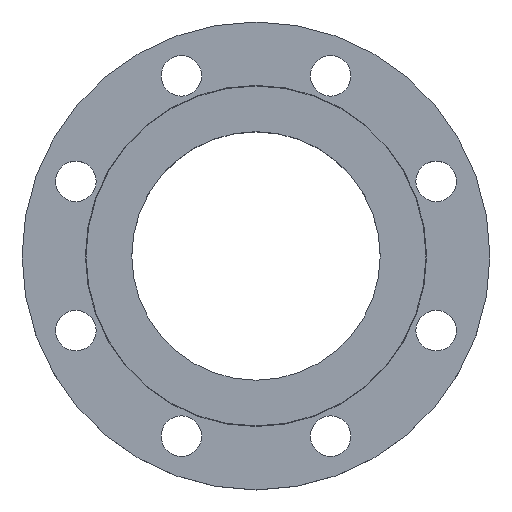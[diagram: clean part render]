
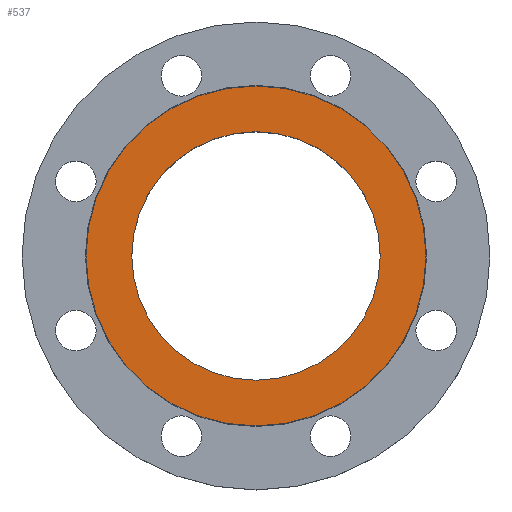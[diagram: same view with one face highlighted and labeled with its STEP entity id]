
A CAD part, top view. The second image highlights one B-rep face of the part: STEP entity #537.
In plain terms, the highlighted planar face has unit normal (0, 0, 1).
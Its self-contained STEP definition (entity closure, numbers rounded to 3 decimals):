
#3 = AXIS2_PLACEMENT_3D ( 'NONE', #212, #547, #865 ) ;
#58 = CIRCLE ( 'NONE', #3, 79.65 ) ;
#72 = CIRCLE ( 'NONE', #230, 109. ) ;
#78 = VERTEX_POINT ( 'NONE', #536 ) ;
#114 = ORIENTED_EDGE ( 'NONE', *, *, #667, .T. ) ;
#118 = ORIENTED_EDGE ( 'NONE', *, *, #588, .T. ) ;
#129 = CARTESIAN_POINT ( 'NONE',  ( 0., 0., 0. ) ) ;
#130 = ORIENTED_EDGE ( 'NONE', *, *, #705, .F. ) ;
#139 = ORIENTED_EDGE ( 'NONE', *, *, #231, .F. ) ;
#162 = CARTESIAN_POINT ( 'NONE',  ( 0., 0., 0. ) ) ;
#180 = DIRECTION ( 'NONE',  ( -1., 0., 0. ) ) ;
#212 = CARTESIAN_POINT ( 'NONE',  ( 0., 0., 0. ) ) ;
#227 = CARTESIAN_POINT ( 'NONE',  ( 0., 0., 0. ) ) ;
#230 = AXIS2_PLACEMENT_3D ( 'NONE', #129, #489, #793 ) ;
#231 = EDGE_CURVE ( 'NONE', #896, #981, #423, .T. ) ;
#233 = EDGE_LOOP ( 'NONE', ( #130, #139 ) ) ;
#265 = FACE_BOUND ( 'NONE', #946, .T. ) ;
#387 = CARTESIAN_POINT ( 'NONE',  ( 109., 0., 0. ) ) ;
#423 = CIRCLE ( 'NONE', #852, 109. ) ;
#489 = DIRECTION ( 'NONE',  ( 0., 0., -1. ) ) ;
#511 = DIRECTION ( 'NONE',  ( 0., 0., 1. ) ) ;
#536 = CARTESIAN_POINT ( 'NONE',  ( -79.65, 0., 0. ) ) ;
#537 = ADVANCED_FACE ( 'NONE', ( #265, #584 ), #914, .T. ) ;
#547 = DIRECTION ( 'NONE',  ( 0., 0., -1. ) ) ;
#560 = DIRECTION ( 'NONE',  ( 0., 0., -1. ) ) ;
#584 = FACE_OUTER_BOUND ( 'NONE', #233, .T. ) ;
#588 = EDGE_CURVE ( 'NONE', #878, #78, #884, .T. ) ;
#600 = CARTESIAN_POINT ( 'NONE',  ( 0., 0., 0. ) ) ;
#667 = EDGE_CURVE ( 'NONE', #78, #878, #58, .T. ) ;
#696 = CARTESIAN_POINT ( 'NONE',  ( -109., 0., 0. ) ) ;
#705 = EDGE_CURVE ( 'NONE', #981, #896, #72, .T. ) ;
#768 = AXIS2_PLACEMENT_3D ( 'NONE', #162, #511, #828 ) ;
#793 = DIRECTION ( 'NONE',  ( -1., 0., 0. ) ) ;
#812 = AXIS2_PLACEMENT_3D ( 'NONE', #600, #942, #180 ) ;
#828 = DIRECTION ( 'NONE',  ( 1., 0., 0. ) ) ;
#852 = AXIS2_PLACEMENT_3D ( 'NONE', #227, #560, #877 ) ;
#865 = DIRECTION ( 'NONE',  ( -1., 0., 0. ) ) ;
#877 = DIRECTION ( 'NONE',  ( -1., 0., 0. ) ) ;
#878 = VERTEX_POINT ( 'NONE', #938 ) ;
#884 = CIRCLE ( 'NONE', #812, 79.65 ) ;
#896 = VERTEX_POINT ( 'NONE', #387 ) ;
#914 = PLANE ( 'NONE',  #768 ) ;
#938 = CARTESIAN_POINT ( 'NONE',  ( 79.65, 0., 0. ) ) ;
#942 = DIRECTION ( 'NONE',  ( 0., 0., -1. ) ) ;
#946 = EDGE_LOOP ( 'NONE', ( #114, #118 ) ) ;
#981 = VERTEX_POINT ( 'NONE', #696 ) ;
